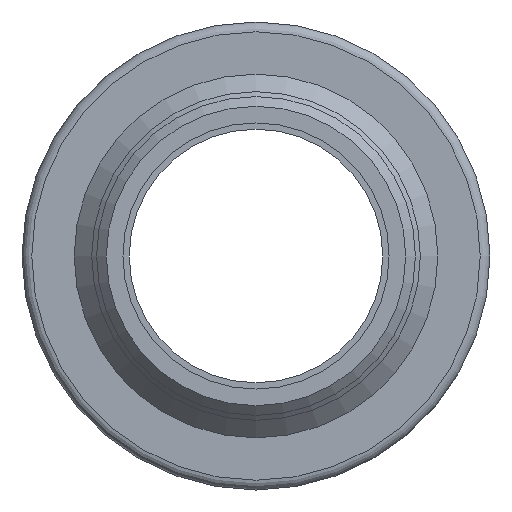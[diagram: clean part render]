
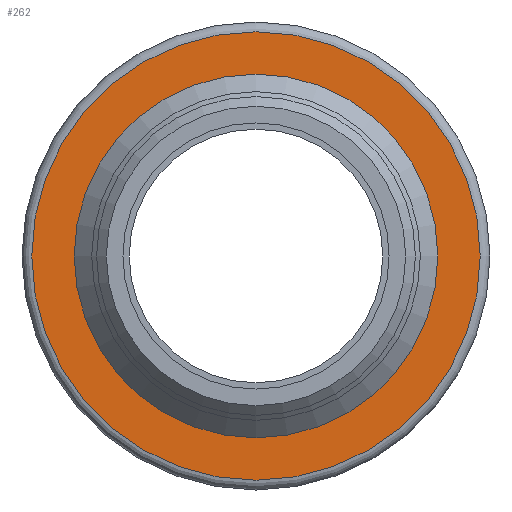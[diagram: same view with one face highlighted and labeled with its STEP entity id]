
A CAD part, front view. The second image highlights one B-rep face of the part: STEP entity #262.
In plain terms, the highlighted planar face has unit normal (0, -1, 0).
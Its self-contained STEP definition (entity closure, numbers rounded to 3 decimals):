
#83=ORIENTED_EDGE('',*,*,#104,.F.);
#84=ORIENTED_EDGE('',*,*,#110,.T.);
#104=EDGE_CURVE('',#125,#125,#146,.T.);
#110=EDGE_CURVE('',#131,#131,#152,.T.);
#125=VERTEX_POINT('',#473);
#131=VERTEX_POINT('',#489);
#146=CIRCLE('',#323,18.65);
#152=CIRCLE('',#333,23.);
#188=EDGE_LOOP('',(#83));
#189=EDGE_LOOP('',(#84));
#230=FACE_BOUND('',#188,.T.);
#231=FACE_BOUND('',#189,.T.);
#243=PLANE('',#334);
#262=ADVANCED_FACE('',(#230,#231),#243,.T.);
#323=AXIS2_PLACEMENT_3D('',#472,#395,#396);
#333=AXIS2_PLACEMENT_3D('',#488,#415,#416);
#334=AXIS2_PLACEMENT_3D('',#490,#417,#418);
#395=DIRECTION('',(0.,-1.,0.));
#396=DIRECTION('',(0.,0.,-1.));
#415=DIRECTION('',(0.,-1.,0.));
#416=DIRECTION('',(0.,0.,-1.));
#417=DIRECTION('',(0.,-1.,0.));
#418=DIRECTION('',(0.,0.,-1.));
#472=CARTESIAN_POINT('',(0.,0.,0.));
#473=CARTESIAN_POINT('',(0.,0.,-18.65));
#488=CARTESIAN_POINT('',(0.,0.,0.));
#489=CARTESIAN_POINT('',(0.,0.,-23.));
#490=CARTESIAN_POINT('',(0.,0.,16.85));
